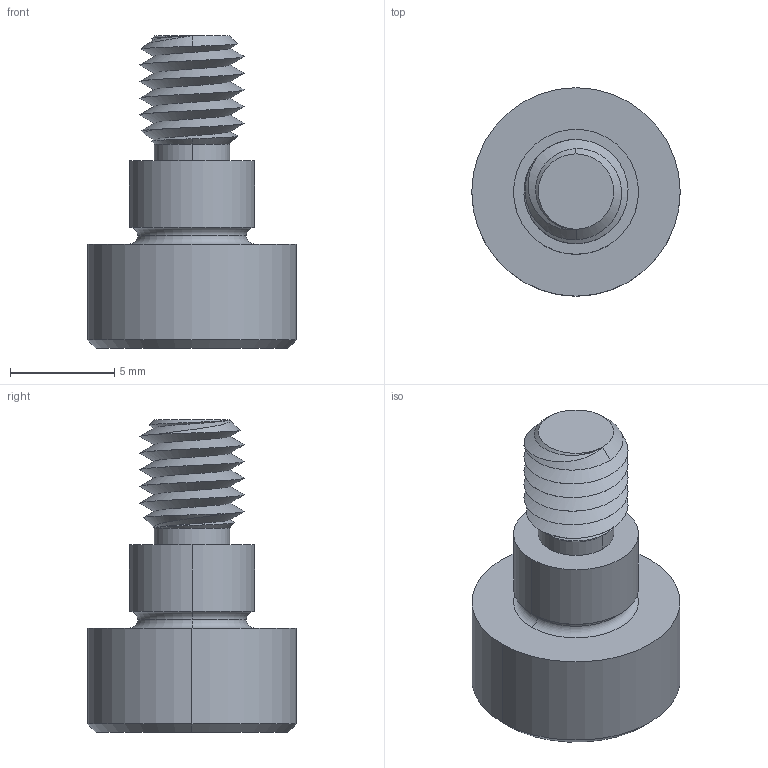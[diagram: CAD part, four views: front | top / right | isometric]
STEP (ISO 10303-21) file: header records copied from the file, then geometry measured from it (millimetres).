
FILE_DESCRIPTION (( 'STEP AP203' ), '1' );
FILE_NAME ('P0130.060-004-B2.step', '2021-11-09T21:20:39', ( '' ), ( '' ), 'SwSTEP 2.0', 'SolidWorks 2019', '' );
FILE_SCHEMA (( 'CONFIG_CONTROL_DESIGN' ));
Length unit declared in the file: millimetre
Products named in the file (1): P0130.060-004-B2
Bounding box: 10 x 10 x 15 mm (x, y, z)
Volume: 556.3 mm3; surface area: 562.9 mm2
Topology: 1 solids, 1 shells, 53 faces, 121 edges, 71 vertices
Faces by surface type: cylinder 17, plane 16, cone 14, torus 4, bspline 2
Entity records: 2367 total; most frequent: CARTESIAN_POINT 1186, ORIENTED_EDGE 238, DIRECTION 226, EDGE_CURVE 119, AXIS2_PLACEMENT_3D 92, VERTEX_POINT 71, EDGE_LOOP 56, FACE_OUTER_BOUND 53
